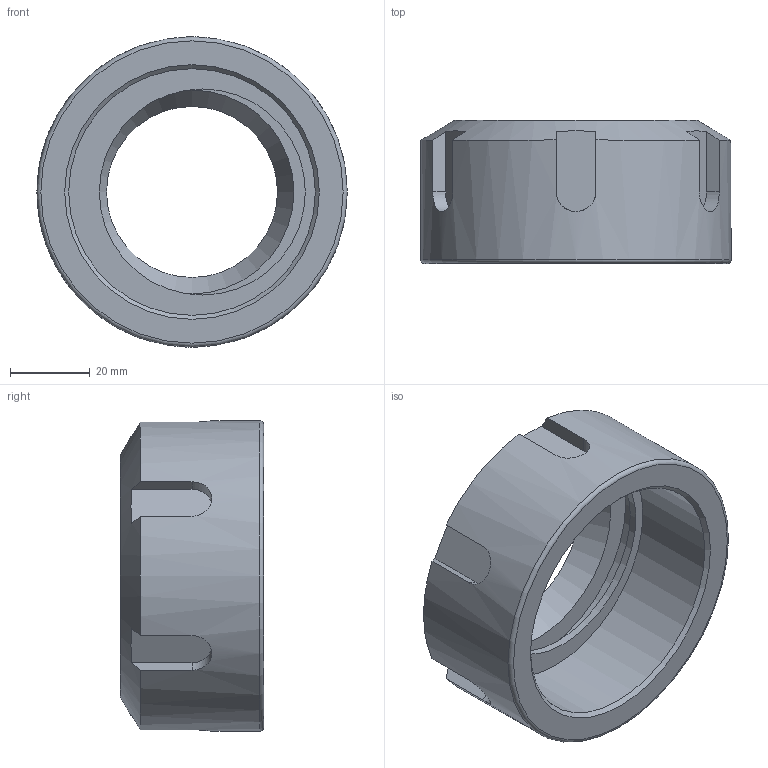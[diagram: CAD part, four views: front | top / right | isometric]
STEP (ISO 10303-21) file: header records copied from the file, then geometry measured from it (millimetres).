
FILE_DESCRIPTION(/* description */ (''),/* implementation_level */ '2;1');
FILE_NAME(/* name */ 'Z:\Проектный отдел\Влад\Фрезерные патроны\Гайка ER50UM.stp',/* time_stamp */ '2023-04-04T16:08:17+03:00',/* author */ ('инженер'),/* organization */ (''),/* preprocessor_version */ 'ST-DEVELOPER v18',/* originating_system */ 'Autodesk Inventor 2020',/* authorisation */ '');
FILE_SCHEMA (('AUTOMOTIVE_DESIGN { 1 0 10303 214 3 1 1 }'));
Length unit declared in the file: millimetre
Products named in the file (1): Гайка ER50UM
Bounding box: 78 x 36 x 78 mm (x, y, z)
Volume: 64650.3 mm3; surface area: 23183.6 mm2
Topology: 1 solids, 1 shells, 37 faces, 107 edges, 75 vertices
Faces by surface type: plane 23, cylinder 10, cone 3, torus 1
Full cylindrical faces by diameter (mm): 51.8 x1, 62 x2, 78 x1
Entity records: 1369 total; most frequent: CARTESIAN_POINT 364, ORIENTED_EDGE 214, DIRECTION 187, EDGE_CURVE 107, VERTEX_POINT 75, AXIS2_PLACEMENT_3D 72, LINE 43, VECTOR 43
